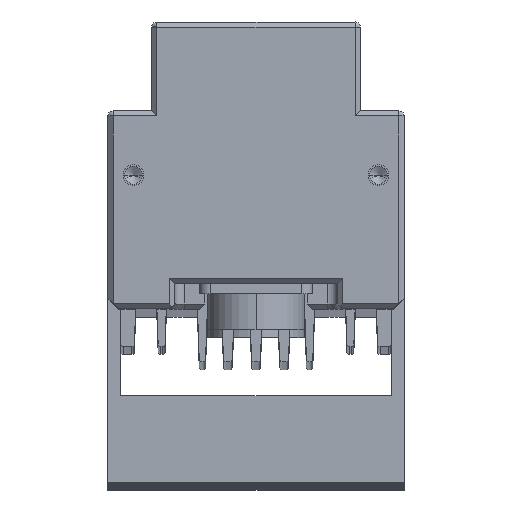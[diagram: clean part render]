
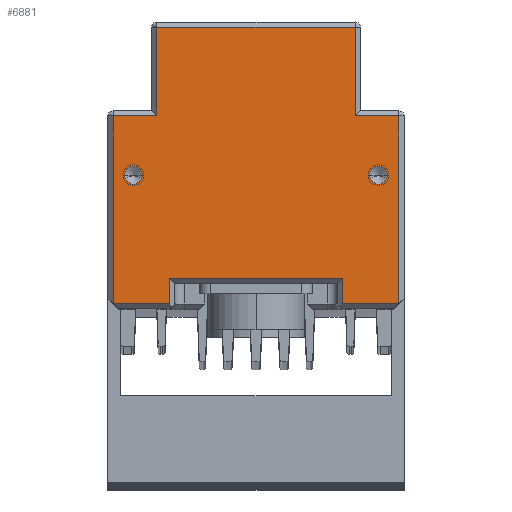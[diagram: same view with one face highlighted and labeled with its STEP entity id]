
A CAD part, top view. The second image highlights one B-rep face of the part: STEP entity #6881.
In plain terms, the highlighted planar face has unit normal (0, 0, 1).
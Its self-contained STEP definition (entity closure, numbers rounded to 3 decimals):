
#761=DIRECTION('',(1.,0.,0.));
#762=VECTOR('',#761,11.);
#763=CARTESIAN_POINT('',(-28.,-9.406,485.));
#764=LINE('',#763,#762);
#765=DIRECTION('',(0.,-1.,0.));
#766=VECTOR('',#765,36.8);
#767=CARTESIAN_POINT('',(-28.,27.394,485.));
#768=LINE('',#767,#766);
#769=DIRECTION('',(-1.,0.,0.));
#770=VECTOR('',#769,8.55);
#771=CARTESIAN_POINT('',(-19.45,27.394,485.));
#772=LINE('',#771,#770);
#773=DIRECTION('',(0.,-1.,0.));
#774=VECTOR('',#773,17.4);
#775=CARTESIAN_POINT('',(-19.45,44.794,485.));
#776=LINE('',#775,#774);
#777=DIRECTION('',(-1.,0.,0.));
#778=VECTOR('',#777,38.899);
#779=CARTESIAN_POINT('',(19.45,44.794,485.));
#780=LINE('',#779,#778);
#781=DIRECTION('',(0.,1.,0.));
#782=VECTOR('',#781,17.4);
#783=CARTESIAN_POINT('',(19.45,27.394,485.));
#784=LINE('',#783,#782);
#785=DIRECTION('',(-1.,0.,0.));
#786=VECTOR('',#785,8.55);
#787=CARTESIAN_POINT('',(28.,27.394,485.));
#788=LINE('',#787,#786);
#789=DIRECTION('',(0.,1.,0.));
#790=VECTOR('',#789,36.8);
#791=CARTESIAN_POINT('',(28.,-9.406,485.));
#792=LINE('',#791,#790);
#793=DIRECTION('',(1.,0.,0.));
#794=VECTOR('',#793,11.);
#795=CARTESIAN_POINT('',(17.,-9.406,485.));
#796=LINE('',#795,#794);
#797=DIRECTION('',(0.,-1.,0.));
#798=VECTOR('',#797,5.);
#799=CARTESIAN_POINT('',(17.,-4.406,485.));
#800=LINE('',#799,#798);
#801=DIRECTION('',(-1.,0.,0.));
#802=VECTOR('',#801,34.);
#803=CARTESIAN_POINT('',(17.,-4.406,485.));
#804=LINE('',#803,#802);
#805=DIRECTION('',(0.,1.,0.));
#806=VECTOR('',#805,5.);
#807=CARTESIAN_POINT('',(-17.,-9.406,485.));
#808=LINE('',#807,#806);
#809=CARTESIAN_POINT('',(24.,15.794,485.));
#810=DIRECTION('',(0.,0.,-1.));
#811=DIRECTION('',(1.,0.,0.));
#812=AXIS2_PLACEMENT_3D('',#809,#810,#811);
#814=CARTESIAN_POINT('',(24.,15.794,485.));
#815=DIRECTION('',(0.,0.,-1.));
#816=DIRECTION('',(-1.,0.,0.));
#817=AXIS2_PLACEMENT_3D('',#814,#815,#816);
#819=CARTESIAN_POINT('',(-24.,15.794,485.));
#820=DIRECTION('',(0.,0.,-1.));
#821=DIRECTION('',(1.,0.,0.));
#822=AXIS2_PLACEMENT_3D('',#819,#820,#821);
#824=CARTESIAN_POINT('',(-24.,15.794,485.));
#825=DIRECTION('',(0.,0.,-1.));
#826=DIRECTION('',(-1.,0.,0.));
#827=AXIS2_PLACEMENT_3D('',#824,#825,#826);
#5028=CARTESIAN_POINT('',(-28.,-9.406,485.));
#5029=CARTESIAN_POINT('',(-17.,-9.406,485.));
#5030=VERTEX_POINT('',#5028);
#5031=VERTEX_POINT('',#5029);
#5040=CARTESIAN_POINT('',(-28.,27.394,485.));
#5041=VERTEX_POINT('',#5040);
#5044=CARTESIAN_POINT('',(-19.45,27.394,485.));
#5045=VERTEX_POINT('',#5044);
#5048=CARTESIAN_POINT('',(19.45,27.394,485.));
#5049=CARTESIAN_POINT('',(19.45,44.794,485.));
#5050=VERTEX_POINT('',#5048);
#5051=VERTEX_POINT('',#5049);
#5058=CARTESIAN_POINT('',(-19.45,44.794,485.));
#5059=VERTEX_POINT('',#5058);
#5064=CARTESIAN_POINT('',(28.,-9.406,485.));
#5065=CARTESIAN_POINT('',(28.,27.394,485.));
#5066=VERTEX_POINT('',#5064);
#5067=VERTEX_POINT('',#5065);
#5078=CARTESIAN_POINT('',(17.,-9.406,485.));
#5079=VERTEX_POINT('',#5078);
#5100=CARTESIAN_POINT('',(17.,-4.406,485.));
#5101=VERTEX_POINT('',#5100);
#5102=CARTESIAN_POINT('',(-17.,-4.406,485.));
#5103=VERTEX_POINT('',#5102);
#5734=CARTESIAN_POINT('',(25.75,15.794,485.));
#5735=VERTEX_POINT('',#5734);
#5736=CARTESIAN_POINT('',(22.25,15.794,485.));
#5737=VERTEX_POINT('',#5736);
#5744=CARTESIAN_POINT('',(-22.25,15.794,485.));
#5745=VERTEX_POINT('',#5744);
#5746=CARTESIAN_POINT('',(-25.75,15.794,485.));
#5747=VERTEX_POINT('',#5746);
#6839=CARTESIAN_POINT('',(0.,0.,485.));
#6840=DIRECTION('',(0.,0.,1.));
#6841=DIRECTION('',(1.,0.,0.));
#6842=AXIS2_PLACEMENT_3D('',#6839,#6840,#6841);
#6843=PLANE('',#6842);
#6845=ORIENTED_EDGE('',*,*,#6844,.F.);
#6847=ORIENTED_EDGE('',*,*,#6846,.F.);
#6849=ORIENTED_EDGE('',*,*,#6848,.F.);
#6851=ORIENTED_EDGE('',*,*,#6850,.F.);
#6853=ORIENTED_EDGE('',*,*,#6852,.F.);
#6855=ORIENTED_EDGE('',*,*,#6854,.F.);
#6857=ORIENTED_EDGE('',*,*,#6856,.F.);
#6859=ORIENTED_EDGE('',*,*,#6858,.F.);
#6861=ORIENTED_EDGE('',*,*,#6860,.F.);
#6863=ORIENTED_EDGE('',*,*,#6862,.F.);
#6865=ORIENTED_EDGE('',*,*,#6864,.T.);
#6866=ORIENTED_EDGE('',*,*,#6828,.F.);
#6867=EDGE_LOOP('',(#6845,#6847,#6849,#6851,#6853,#6855,#6857,#6859,#6861,#6863,
#6865,#6866));
#6868=FACE_OUTER_BOUND('',#6867,.F.);
#6870=ORIENTED_EDGE('',*,*,#6869,.F.);
#6872=ORIENTED_EDGE('',*,*,#6871,.F.);
#6873=EDGE_LOOP('',(#6870,#6872));
#6874=FACE_BOUND('',#6873,.F.);
#6876=ORIENTED_EDGE('',*,*,#6875,.F.);
#6878=ORIENTED_EDGE('',*,*,#6877,.F.);
#6879=EDGE_LOOP('',(#6876,#6878));
#6880=FACE_BOUND('',#6879,.F.);
#813=CIRCLE('',#812,1.75);
#818=CIRCLE('',#817,1.75);
#823=CIRCLE('',#822,1.75);
#828=CIRCLE('',#827,1.75);
#6828=EDGE_CURVE('',#5031,#5103,#808,.T.);
#6844=EDGE_CURVE('',#5030,#5031,#764,.T.);
#6846=EDGE_CURVE('',#5041,#5030,#768,.T.);
#6848=EDGE_CURVE('',#5045,#5041,#772,.T.);
#6850=EDGE_CURVE('',#5059,#5045,#776,.T.);
#6852=EDGE_CURVE('',#5051,#5059,#780,.T.);
#6854=EDGE_CURVE('',#5050,#5051,#784,.T.);
#6856=EDGE_CURVE('',#5067,#5050,#788,.T.);
#6858=EDGE_CURVE('',#5066,#5067,#792,.T.);
#6860=EDGE_CURVE('',#5079,#5066,#796,.T.);
#6862=EDGE_CURVE('',#5101,#5079,#800,.T.);
#6864=EDGE_CURVE('',#5101,#5103,#804,.T.);
#6869=EDGE_CURVE('',#5735,#5737,#813,.T.);
#6871=EDGE_CURVE('',#5737,#5735,#818,.T.);
#6875=EDGE_CURVE('',#5745,#5747,#823,.T.);
#6877=EDGE_CURVE('',#5747,#5745,#828,.T.);
#6881=ADVANCED_FACE('',(#6868,#6874,#6880),#6843,.T.);
